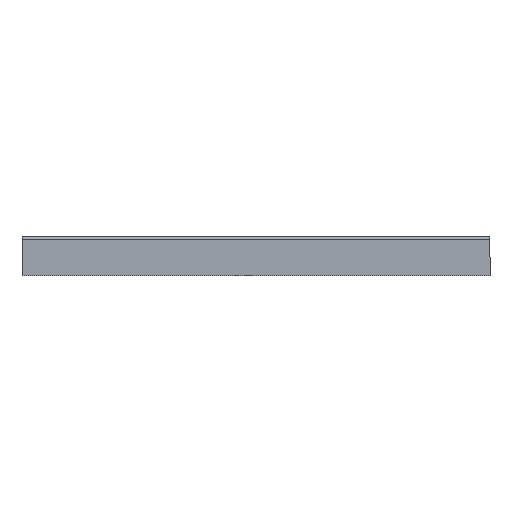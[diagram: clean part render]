
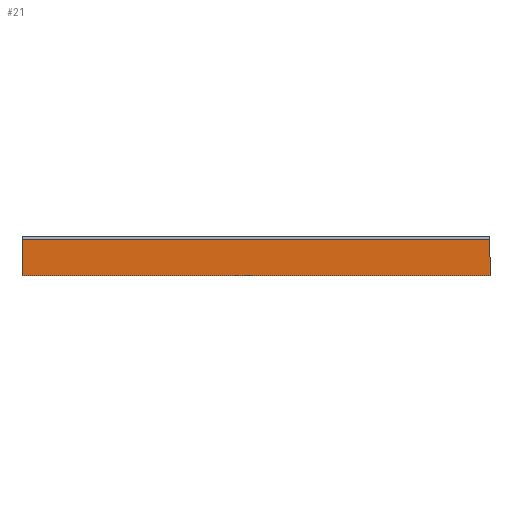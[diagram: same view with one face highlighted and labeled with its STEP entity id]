
A CAD part, left-side view. The second image highlights one B-rep face of the part: STEP entity #21.
In plain terms, the highlighted planar face has unit normal (-1, 0, 0).
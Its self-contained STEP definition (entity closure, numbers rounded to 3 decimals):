
#21 = ADVANCED_FACE ( 'NONE', ( #1036 ), #701, .T. ) ;
#91 = AXIS2_PLACEMENT_3D ( 'NONE', #698, #692, #691 ) ;
#205 = EDGE_CURVE ( 'NONE', #789, #820, #1194, .T. ) ;
#224 = EDGE_CURVE ( 'NONE', #806, #820, #1074, .T. ) ;
#227 = EDGE_CURVE ( 'NONE', #818, #789, #1072, .T. ) ;
#248 = EDGE_CURVE ( 'NONE', #818, #806, #999, .T. ) ;
#273 = CARTESIAN_POINT ( 'NONE',  ( -100., 0., 0. ) ) ;
#321 = CARTESIAN_POINT ( 'NONE',  ( -100., 479., 0. ) ) ;
#343 = DIRECTION ( 'NONE',  ( 0., 0., 1. ) ) ;
#344 = CARTESIAN_POINT ( 'NONE',  ( -100., 479., 0. ) ) ;
#429 = CARTESIAN_POINT ( 'NONE',  ( -100., 0., 37. ) ) ;
#431 = DIRECTION ( 'NONE',  ( 0., -1., 0. ) ) ;
#432 = CARTESIAN_POINT ( 'NONE',  ( -100., 479., 0. ) ) ;
#441 = CARTESIAN_POINT ( 'NONE',  ( -100., 479., 37. ) ) ;
#443 = DIRECTION ( 'NONE',  ( 0., -1., 0. ) ) ;
#444 = CARTESIAN_POINT ( 'NONE',  ( -100., 479., 37. ) ) ;
#545 = DIRECTION ( 'NONE',  ( 0., 0., 1. ) ) ;
#546 = CARTESIAN_POINT ( 'NONE',  ( -100., 0., 0. ) ) ;
#691 = DIRECTION ( 'NONE',  ( 0., 0., 1. ) ) ;
#692 = DIRECTION ( 'NONE',  ( -1., 0., 0. ) ) ;
#698 = CARTESIAN_POINT ( 'NONE',  ( -100., 479., 0. ) ) ;
#701 = PLANE ( 'NONE',  #91 ) ;
#789 = VERTEX_POINT ( 'NONE', #273 ) ;
#806 = VERTEX_POINT ( 'NONE', #441 ) ;
#818 = VERTEX_POINT ( 'NONE', #321 ) ;
#820 = VERTEX_POINT ( 'NONE', #429 ) ;
#832 = ORIENTED_EDGE ( 'NONE', *, *, #248, .F. ) ;
#865 = ORIENTED_EDGE ( 'NONE', *, *, #227, .T. ) ;
#949 = ORIENTED_EDGE ( 'NONE', *, *, #205, .T. ) ;
#996 = VECTOR ( 'NONE', #343, 1000. ) ;
#999 = LINE ( 'NONE', #344, #996 ) ;
#1036 = FACE_OUTER_BOUND ( 'NONE', #1260, .T. ) ;
#1044 = VECTOR ( 'NONE', #431, 1000. ) ;
#1058 = VECTOR ( 'NONE', #443, 1000. ) ;
#1072 = LINE ( 'NONE', #432, #1044 ) ;
#1074 = LINE ( 'NONE', #444, #1058 ) ;
#1090 = ORIENTED_EDGE ( 'NONE', *, *, #224, .F. ) ;
#1127 = VECTOR ( 'NONE', #545, 1000. ) ;
#1194 = LINE ( 'NONE', #546, #1127 ) ;
#1260 = EDGE_LOOP ( 'NONE', ( #949, #1090, #832, #865 ) ) ;
